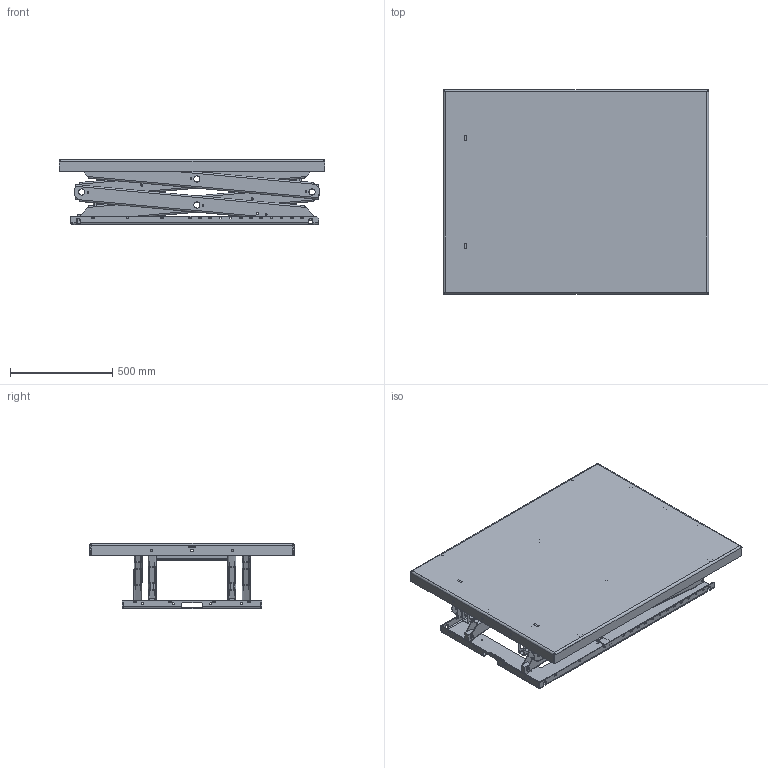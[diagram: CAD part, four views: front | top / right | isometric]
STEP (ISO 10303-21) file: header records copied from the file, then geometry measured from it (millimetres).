
FILE_DESCRIPTION(/* description */ ('TLD 1000XB (1300x1000)'),/* implementation_level */ '2;1');
FILE_NAME(/* name */ '\\EDMOFILE01\Users$\JOHSO\Desktop\601741_Collapsed.stp',/* time_stamp */ '2018-05-16T10:02:41+02:00',/* author */ ('johso'),/* organization */ (''),/* preprocessor_version */ 'ST-DEVELOPER v16.5',/* originating_system */ 'Autodesk Inventor 2017',/* authorisation */ '');
FILE_SCHEMA (('AUTOMOTIVE_DESIGN { 1 0 10303 214 3 1 1 }'));
Length unit declared in the file: millimetre
Products named in the file (20): 601741.tmp; 611364; 611365; 44681; 32080C; 32081; 45258; 42394; 83212; 612549; 600583; 600584; 600585; 82153 - 350; 600582; 82153-1180; 82091 - 37; 43775; 600587; 82153-1180_1
Assembly tree (39 placements, depth 5):
  601741.tmp
    611364
      611365
      45258  x2
      44681  x2
    32080C
      32081
      45258  x2
      42394  x2
      83212  x4
    612549
      600583
        600582  x2
          82153-1180
      600584
        600587  x2
          82153-1180_1
      600585
        82153 - 350
        600582  x2
          82153-1180
        82091 - 37  x4
      600587  x2
        82153-1180_1
      43775  x4
Bounding box: 1300 x 1000 x 320 mm (x, y, z)
Volume: 18893914.6 mm3; surface area: 8464264.4 mm2
Topology: 27 solids, 27 shells, 1353 faces, 3750 edges, 2445 vertices
Faces by surface type: plane 656, cylinder 631, bspline 38, cone 28
Full cylindrical faces by diameter (mm): 5.55 x2, 6.8 x8, 7.4 x24, 8 x4, 10.1 x16, 10.2 x16, 10.5 x16, 11.63 x4, 12.5 x2, 13 x10, 20.1 x4, 30.3 x16, 44.3 x16
Entity records: 27817 total; most frequent: CARTESIAN_POINT 5761, DIRECTION 4461, ORIENTED_EDGE 4444, EDGE_CURVE 2222, AXIS2_PLACEMENT_3D 1517, VERTEX_POINT 1491, LINE 1427, VECTOR 1427
